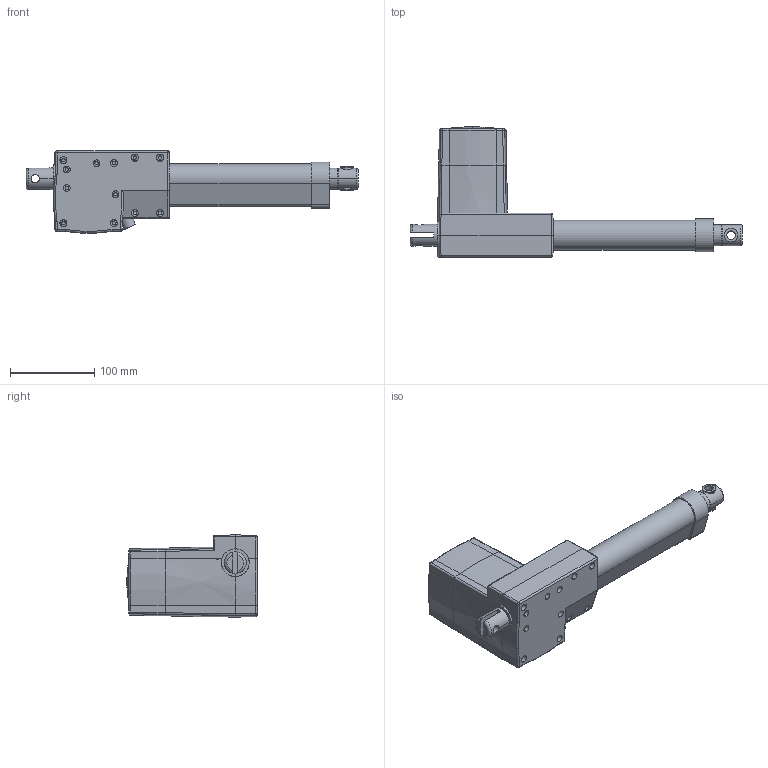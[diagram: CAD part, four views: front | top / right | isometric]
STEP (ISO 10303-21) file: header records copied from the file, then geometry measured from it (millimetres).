
FILE_DESCRIPTION((''),'2;1');
FILE_NAME('LAM3-S100_ASM','2007-07-12T',('amyliao'),(''),'PRO/ENGINEER BY PARAMETRIC TECHNOLOGY CORPORATION, 2003210','PRO/ENGINEER BY PARAMETRIC TECHNOLOGY CORPORATION, 2003210','');
FILE_SCHEMA(('CONFIG_CONTROL_DESIGN'));
Length unit declared in the file: millimetre
Products named in the file (11): LAM3-COVER-01; LAM3-100; M3-OUT-TUBE-COVER; LAM3-IN-TUBE; LAM3-IN-NUT; LAM3-05; LAM3-100_ASM; LAM3_MOTOR_COVER3_1_0430; LAM3-COVER-03; LAM3-04; LAM3-S100_ASM
Assembly tree (11 placements, depth 3):
  LAM3-S100_ASM
    LAM3-COVER-01
    LAM3-100_ASM
      LAM3-100
      M3-OUT-TUBE-COVER
      LAM3-IN-TUBE
      LAM3-IN-NUT
      LAM3-05  x2
    LAM3_MOTOR_COVER3_1_0430
    LAM3-COVER-03
    LAM3-04
Bounding box: 395 x 155 x 97.78 mm (x, y, z)
Volume: 608556.1 mm3; surface area: 280288.2 mm2
Topology: 10 solids, 10 shells, 746 faces, 2031 edges, 1330 vertices
Faces by surface type: plane 402, cylinder 220, cone 81, sphere 24, torus 15, bspline 4
Entity records: 25024 total; most frequent: CARTESIAN_POINT 5824, ORIENTED_EDGE 4014, DIRECTION 4007, EDGE_CURVE 2007, AXIS2_PLACEMENT_3D 1515, VERTEX_POINT 1318, VECTOR 977, LINE 977
